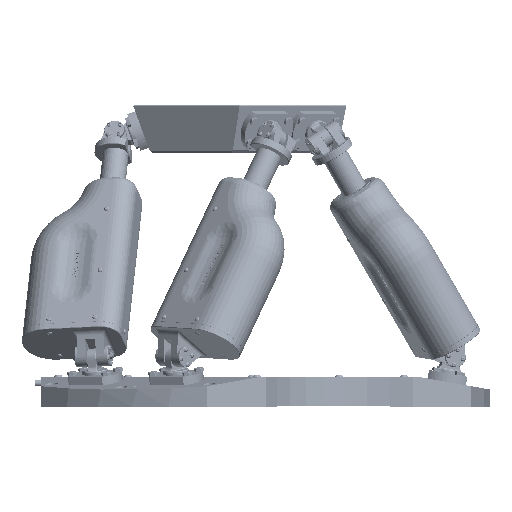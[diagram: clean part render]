
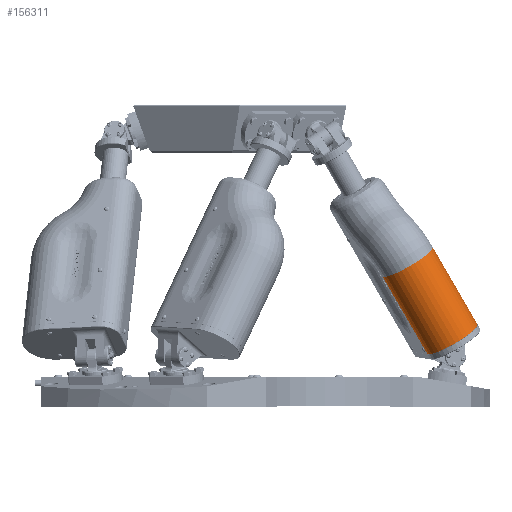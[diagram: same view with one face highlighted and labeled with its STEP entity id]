
A CAD part, front view. The second image highlights one B-rep face of the part: STEP entity #156311.
In plain terms, the highlighted cylindrical face has radius 34 mm (diameter 68 mm), a partial arc.
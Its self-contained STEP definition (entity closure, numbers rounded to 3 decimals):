
#8701 = VERTEX_POINT ( 'NONE', #143029 ) ;
#11244 = DIRECTION ( 'NONE',  ( 1., 0., 0. ) ) ;
#12124 = CARTESIAN_POINT ( 'NONE',  ( 0., 52.5, 26.4 ) ) ;
#17205 = VERTEX_POINT ( 'NONE', #136714 ) ;
#22541 = DIRECTION ( 'NONE',  ( -1., 0., 0. ) ) ;
#28092 = EDGE_CURVE ( 'NONE', #114233, #89395, #75903, .T. ) ;
#34881 = LINE ( 'NONE', #45548, #112406 ) ;
#35487 = CARTESIAN_POINT ( 'NONE',  ( -34., 52.5, 226.5 ) ) ;
#36344 = VECTOR ( 'NONE', #157783, 1000. ) ;
#45548 = CARTESIAN_POINT ( 'NONE',  ( 34., 52.5, 226.5 ) ) ;
#60469 = EDGE_LOOP ( 'NONE', ( #133180, #65718, #170974, #164856 ) ) ;
#64409 = EDGE_CURVE ( 'NONE', #17205, #114233, #34881, .T. ) ;
#65718 = ORIENTED_EDGE ( 'NONE', *, *, #28092, .T. ) ;
#67428 = AXIS2_PLACEMENT_3D ( 'NONE', #12124, #130904, #11244 ) ;
#75903 = CIRCLE ( 'NONE', #67428, 34. ) ;
#88928 = DIRECTION ( 'NONE',  ( 0., 0., -1. ) ) ;
#89395 = VERTEX_POINT ( 'NONE', #141352 ) ;
#96284 = DIRECTION ( 'NONE',  ( 0., 0., -1. ) ) ;
#97219 = AXIS2_PLACEMENT_3D ( 'NONE', #161950, #96284, #137028 ) ;
#112406 = VECTOR ( 'NONE', #88928, 1000. ) ;
#114233 = VERTEX_POINT ( 'NONE', #137178 ) ;
#116470 = DIRECTION ( 'NONE',  ( 0., 0., -1. ) ) ;
#117918 = EDGE_CURVE ( 'NONE', #8701, #89395, #143570, .T. ) ;
#129759 = FACE_OUTER_BOUND ( 'NONE', #60469, .T. ) ;
#129790 = EDGE_CURVE ( 'NONE', #8701, #17205, #159530, .T. ) ;
#130904 = DIRECTION ( 'NONE',  ( 0., 0., 1. ) ) ;
#133180 = ORIENTED_EDGE ( 'NONE', *, *, #64409, .T. ) ;
#136714 = CARTESIAN_POINT ( 'NONE',  ( 34., 52.5, 131.528 ) ) ;
#137028 = DIRECTION ( 'NONE',  ( -1., 0., 0. ) ) ;
#137178 = CARTESIAN_POINT ( 'NONE',  ( 34., 52.5, 26.4 ) ) ;
#141352 = CARTESIAN_POINT ( 'NONE',  ( -34., 52.5, 26.4 ) ) ;
#143029 = CARTESIAN_POINT ( 'NONE',  ( -34., 52.5, 131.528 ) ) ;
#143570 = LINE ( 'NONE', #35487, #36344 ) ;
#146661 = AXIS2_PLACEMENT_3D ( 'NONE', #169714, #116470, #22541 ) ;
#156311 = ADVANCED_FACE ( 'NONE', ( #129759 ), #156382, .T. ) ;
#156382 = CYLINDRICAL_SURFACE ( 'NONE', #146661, 34. ) ;
#157783 = DIRECTION ( 'NONE',  ( 0., 0., -1. ) ) ;
#159530 = CIRCLE ( 'NONE', #97219, 34. ) ;
#161950 = CARTESIAN_POINT ( 'NONE',  ( 0., 52.5, 131.528 ) ) ;
#164856 = ORIENTED_EDGE ( 'NONE', *, *, #129790, .T. ) ;
#169714 = CARTESIAN_POINT ( 'NONE',  ( 0., 52.5, 226.5 ) ) ;
#170974 = ORIENTED_EDGE ( 'NONE', *, *, #117918, .F. ) ;
